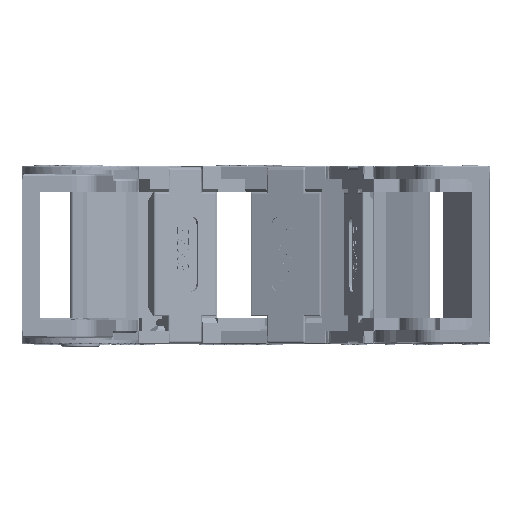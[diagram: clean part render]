
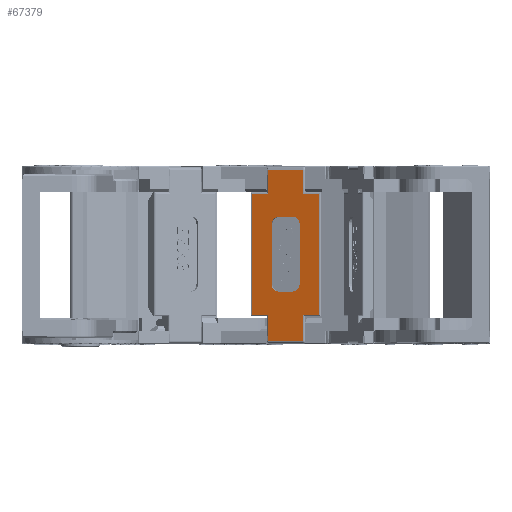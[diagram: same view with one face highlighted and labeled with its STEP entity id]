
A CAD part, left-side view. The second image highlights one B-rep face of the part: STEP entity #67379.
In plain terms, the highlighted planar face has unit normal (-0.937, 0.348, 0).
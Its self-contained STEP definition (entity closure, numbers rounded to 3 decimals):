
#4407=PLANE('',#275696);
#11814=FACE_BOUND('',#97824,.T.);
#11815=FACE_BOUND('',#97825,.T.);
#17404=LINE('',#366055,#42369);
#17405=LINE('',#366060,#42370);
#17406=LINE('',#366064,#42371);
#17407=LINE('',#366068,#42372);
#17408=LINE('',#366071,#42373);
#17409=LINE('',#366074,#42374);
#17410=LINE('',#366076,#42375);
#17411=LINE('',#366078,#42376);
#17412=LINE('',#366080,#42377);
#17413=LINE('',#366082,#42378);
#17414=LINE('',#366084,#42379);
#17415=LINE('',#366086,#42380);
#17416=LINE('',#366088,#42381);
#17417=LINE('',#366090,#42382);
#17418=LINE('',#366092,#42383);
#17419=LINE('',#366094,#42384);
#42369=VECTOR('',#295751,1.);
#42370=VECTOR('',#295754,1.);
#42371=VECTOR('',#295757,1.);
#42372=VECTOR('',#295760,1.);
#42373=VECTOR('',#295763,1.);
#42374=VECTOR('',#295764,1.);
#42375=VECTOR('',#295765,1.);
#42376=VECTOR('',#295766,1.);
#42377=VECTOR('',#295767,1.);
#42378=VECTOR('',#295768,1.);
#42379=VECTOR('',#295769,1.);
#42380=VECTOR('',#295770,1.);
#42381=VECTOR('',#295771,1.);
#42382=VECTOR('',#295772,1.);
#42383=VECTOR('',#295773,1.);
#42384=VECTOR('',#295774,1.);
#67379=ADVANCED_FACE('',(#11814,#11815),#4407,.T.);
#97824=EDGE_LOOP('',(#131555,#131556,#131557,#131558,#131559,#131560,#131561,
#131562));
#97825=EDGE_LOOP('',(#131563,#131564,#131565,#131566,#131567,#131568,#131569,
#131570,#131571,#131572,#131573,#131574));
#122000=CIRCLE('',#275692,1.611);
#122001=CIRCLE('',#275693,1.511);
#122002=CIRCLE('',#275694,1.511);
#122003=CIRCLE('',#275695,1.511);
#131555=ORIENTED_EDGE('',*,*,#236232,.F.);
#131556=ORIENTED_EDGE('',*,*,#236233,.F.);
#131557=ORIENTED_EDGE('',*,*,#236234,.F.);
#131558=ORIENTED_EDGE('',*,*,#236235,.F.);
#131559=ORIENTED_EDGE('',*,*,#236236,.F.);
#131560=ORIENTED_EDGE('',*,*,#236237,.F.);
#131561=ORIENTED_EDGE('',*,*,#236238,.F.);
#131562=ORIENTED_EDGE('',*,*,#236239,.F.);
#131563=ORIENTED_EDGE('',*,*,#236240,.T.);
#131564=ORIENTED_EDGE('',*,*,#236241,.T.);
#131565=ORIENTED_EDGE('',*,*,#236242,.F.);
#131566=ORIENTED_EDGE('',*,*,#236243,.T.);
#131567=ORIENTED_EDGE('',*,*,#236244,.T.);
#131568=ORIENTED_EDGE('',*,*,#236245,.T.);
#131569=ORIENTED_EDGE('',*,*,#236246,.T.);
#131570=ORIENTED_EDGE('',*,*,#236247,.T.);
#131571=ORIENTED_EDGE('',*,*,#236248,.T.);
#131572=ORIENTED_EDGE('',*,*,#236249,.T.);
#131573=ORIENTED_EDGE('',*,*,#236250,.T.);
#131574=ORIENTED_EDGE('',*,*,#236251,.T.);
#209534=VERTEX_POINT('',#366056);
#209535=VERTEX_POINT('',#366057);
#209536=VERTEX_POINT('',#366059);
#209537=VERTEX_POINT('',#366061);
#209538=VERTEX_POINT('',#366063);
#209539=VERTEX_POINT('',#366065);
#209540=VERTEX_POINT('',#366067);
#209541=VERTEX_POINT('',#366069);
#209542=VERTEX_POINT('',#366072);
#209543=VERTEX_POINT('',#366073);
#209544=VERTEX_POINT('',#366075);
#209545=VERTEX_POINT('',#366077);
#209546=VERTEX_POINT('',#366079);
#209547=VERTEX_POINT('',#366081);
#209548=VERTEX_POINT('',#366083);
#209549=VERTEX_POINT('',#366085);
#209550=VERTEX_POINT('',#366087);
#209551=VERTEX_POINT('',#366089);
#209552=VERTEX_POINT('',#366091);
#209553=VERTEX_POINT('',#366093);
#236232=EDGE_CURVE('',#209534,#209535,#17404,.T.);
#236233=EDGE_CURVE('',#209536,#209534,#122000,.T.);
#236234=EDGE_CURVE('',#209537,#209536,#17405,.T.);
#236235=EDGE_CURVE('',#209538,#209537,#122001,.T.);
#236236=EDGE_CURVE('',#209539,#209538,#17406,.T.);
#236237=EDGE_CURVE('',#209540,#209539,#122002,.T.);
#236238=EDGE_CURVE('',#209541,#209540,#17407,.T.);
#236239=EDGE_CURVE('',#209535,#209541,#122003,.T.);
#236240=EDGE_CURVE('',#209542,#209543,#17408,.T.);
#236241=EDGE_CURVE('',#209543,#209544,#17409,.T.);
#236242=EDGE_CURVE('',#209545,#209544,#17410,.T.);
#236243=EDGE_CURVE('',#209545,#209546,#17411,.T.);
#236244=EDGE_CURVE('',#209546,#209547,#17412,.T.);
#236245=EDGE_CURVE('',#209547,#209548,#17413,.T.);
#236246=EDGE_CURVE('',#209548,#209549,#17414,.T.);
#236247=EDGE_CURVE('',#209549,#209550,#17415,.T.);
#236248=EDGE_CURVE('',#209550,#209551,#17416,.T.);
#236249=EDGE_CURVE('',#209551,#209552,#17417,.T.);
#236250=EDGE_CURVE('',#209552,#209553,#17418,.T.);
#236251=EDGE_CURVE('',#209553,#209542,#17419,.T.);
#275692=AXIS2_PLACEMENT_3D('',#366058,#295752,#295753);
#275693=AXIS2_PLACEMENT_3D('',#366062,#295755,#295756);
#275694=AXIS2_PLACEMENT_3D('',#366066,#295758,#295759);
#275695=AXIS2_PLACEMENT_3D('',#366070,#295761,#295762);
#275696=AXIS2_PLACEMENT_3D('',#366095,#295775,#295776);
#295751=DIRECTION('',(0.,0.,-1.));
#295752=DIRECTION('',(-0.937,0.349,0.));
#295753=DIRECTION('',(0.,0.,1.));
#295754=DIRECTION('',(0.349,0.937,0.));
#295755=DIRECTION('',(-0.937,0.349,0.));
#295756=DIRECTION('',(0.,0.,1.));
#295757=DIRECTION('',(0.,0.,1.));
#295758=DIRECTION('',(-0.937,0.349,0.));
#295759=DIRECTION('',(0.,0.,1.));
#295760=DIRECTION('',(-0.349,-0.937,0.));
#295761=DIRECTION('',(-0.937,0.349,0.));
#295762=DIRECTION('',(0.,0.,1.));
#295763=DIRECTION('',(0.349,0.937,0.));
#295764=DIRECTION('',(0.,0.,1.));
#295765=DIRECTION('',(-0.349,-0.937,0.));
#295766=DIRECTION('',(0.,0.,-1.));
#295767=DIRECTION('',(0.349,0.937,0.));
#295768=DIRECTION('',(0.,0.,-1.));
#295769=DIRECTION('',(-0.349,-0.937,0.));
#295770=DIRECTION('',(0.,0.,-1.));
#295771=DIRECTION('',(-0.349,-0.937,0.));
#295772=DIRECTION('',(0.,0.,1.));
#295773=DIRECTION('',(-0.349,-0.937,0.));
#295774=DIRECTION('',(0.,0.,1.));
#295775=DIRECTION('',(-0.937,0.349,0.));
#295776=DIRECTION('',(0.,0.,1.));
#366055=CARTESIAN_POINT('',(39.201,-38.464,104.47));
#366056=CARTESIAN_POINT('',(39.201,-38.464,93.373));
#366057=CARTESIAN_POINT('',(39.201,-38.464,81.39));
#366058=CARTESIAN_POINT('',(38.639,-39.974,93.373));
#366059=CARTESIAN_POINT('',(38.639,-39.974,94.985));
#366060=CARTESIAN_POINT('',(54.728,3.29,94.985));
#366061=CARTESIAN_POINT('',(37.622,-42.711,94.985));
#366062=CARTESIAN_POINT('',(37.622,-42.711,93.474));
#366063=CARTESIAN_POINT('',(37.095,-44.127,93.474));
#366064=CARTESIAN_POINT('',(37.095,-44.127,104.47));
#366065=CARTESIAN_POINT('',(37.095,-44.127,81.39));
#366066=CARTESIAN_POINT('',(37.622,-42.711,81.39));
#366067=CARTESIAN_POINT('',(37.622,-42.711,79.88));
#366068=CARTESIAN_POINT('',(54.728,3.29,79.88));
#366069=CARTESIAN_POINT('',(38.675,-39.879,79.88));
#366070=CARTESIAN_POINT('',(38.675,-39.879,81.39));
#366071=CARTESIAN_POINT('',(54.728,3.29,99.607));
#366072=CARTESIAN_POINT('',(35.62,-48.093,99.607));
#366073=CARTESIAN_POINT('',(36.839,-44.816,99.607));
#366074=CARTESIAN_POINT('',(36.839,-44.816,104.47));
#366075=CARTESIAN_POINT('',(36.839,-44.816,104.47));
#366076=CARTESIAN_POINT('',(54.728,3.29,104.47));
#366077=CARTESIAN_POINT('',(39.457,-37.774,104.47));
#366078=CARTESIAN_POINT('',(39.457,-37.774,104.47));
#366079=CARTESIAN_POINT('',(39.457,-37.774,99.607));
#366080=CARTESIAN_POINT('',(54.728,3.29,99.607));
#366081=CARTESIAN_POINT('',(40.676,-34.497,99.607));
#366082=CARTESIAN_POINT('',(40.676,-34.497,104.47));
#366083=CARTESIAN_POINT('',(40.676,-34.497,75.258));
#366084=CARTESIAN_POINT('',(54.728,3.29,75.258));
#366085=CARTESIAN_POINT('',(39.457,-37.774,75.258));
#366086=CARTESIAN_POINT('',(39.457,-37.774,104.47));
#366087=CARTESIAN_POINT('',(39.457,-37.774,69.884));
#366088=CARTESIAN_POINT('',(54.728,3.29,69.884));
#366089=CARTESIAN_POINT('',(36.839,-44.816,69.884));
#366090=CARTESIAN_POINT('',(36.839,-44.816,104.47));
#366091=CARTESIAN_POINT('',(36.839,-44.816,75.258));
#366092=CARTESIAN_POINT('',(54.728,3.29,75.258));
#366093=CARTESIAN_POINT('',(35.62,-48.093,75.258));
#366094=CARTESIAN_POINT('',(35.62,-48.093,104.47));
#366095=CARTESIAN_POINT('',(54.728,3.29,104.47));
